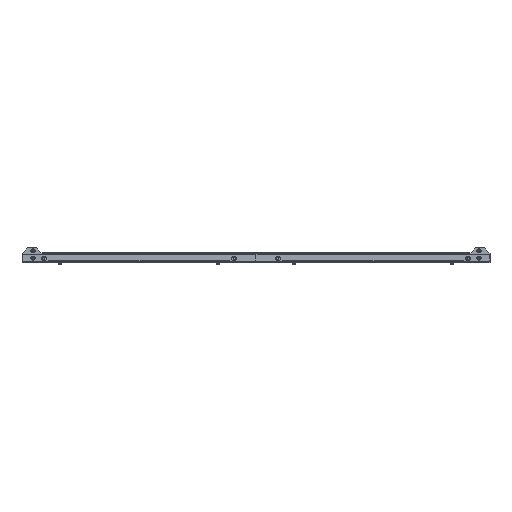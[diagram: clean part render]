
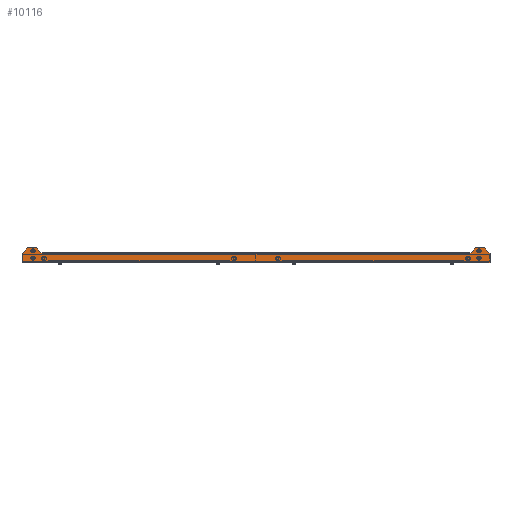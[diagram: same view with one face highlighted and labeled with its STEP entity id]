
A CAD part, front view. The second image highlights one B-rep face of the part: STEP entity #10116.
In plain terms, the highlighted planar face has unit normal (0, -1, 0).
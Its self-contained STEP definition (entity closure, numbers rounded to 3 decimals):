
#10080 = EDGE_CURVE('',#10081,#10083,#10085,.T.);
#10081 = VERTEX_POINT('',#10082);
#10082 = CARTESIAN_POINT('',(-800.,-2.5,3.5));
#10083 = VERTEX_POINT('',#10084);
#10084 = CARTESIAN_POINT('',(-800.,-2.5,31.5));
#10085 = LINE('',#10086,#10087);
#10086 = CARTESIAN_POINT('',(-800.,-2.5,0.));
#10087 = VECTOR('',#10088,1.);
#10088 = DIRECTION('',(0.,0.,1.));
#10116 = ADVANCED_FACE('',(#10117,#10128,#10139,#10150,#10161),#10282,
  .F.);
#10117 = FACE_BOUND('',#10118,.T.);
#10118 = EDGE_LOOP('',(#10119));
#10119 = ORIENTED_EDGE('',*,*,#10120,.F.);
#10120 = EDGE_CURVE('',#10121,#10121,#10123,.T.);
#10121 = VERTEX_POINT('',#10122);
#10122 = CARTESIAN_POINT('',(762.5,-2.5,44.75));
#10123 = CIRCLE('',#10124,4.75);
#10124 = AXIS2_PLACEMENT_3D('',#10125,#10126,#10127);
#10125 = CARTESIAN_POINT('',(762.5,-2.5,40.));
#10126 = DIRECTION('',(0.,-1.,0.));
#10127 = DIRECTION('',(0.,0.,1.));
#10128 = FACE_BOUND('',#10129,.T.);
#10129 = EDGE_LOOP('',(#10130));
#10130 = ORIENTED_EDGE('',*,*,#10131,.F.);
#10131 = EDGE_CURVE('',#10132,#10132,#10134,.T.);
#10132 = VERTEX_POINT('',#10133);
#10133 = CARTESIAN_POINT('',(762.5,-2.5,19.75));
#10134 = CIRCLE('',#10135,4.75);
#10135 = AXIS2_PLACEMENT_3D('',#10136,#10137,#10138);
#10136 = CARTESIAN_POINT('',(762.5,-2.5,15.));
#10137 = DIRECTION('',(0.,-1.,0.));
#10138 = DIRECTION('',(0.,0.,1.));
#10139 = FACE_BOUND('',#10140,.T.);
#10140 = EDGE_LOOP('',(#10141));
#10141 = ORIENTED_EDGE('',*,*,#10142,.F.);
#10142 = EDGE_CURVE('',#10143,#10143,#10145,.T.);
#10143 = VERTEX_POINT('',#10144);
#10144 = CARTESIAN_POINT('',(-762.5,-2.5,19.75));
#10145 = CIRCLE('',#10146,4.75);
#10146 = AXIS2_PLACEMENT_3D('',#10147,#10148,#10149);
#10147 = CARTESIAN_POINT('',(-762.5,-2.5,15.));
#10148 = DIRECTION('',(0.,-1.,0.));
#10149 = DIRECTION('',(0.,0.,1.));
#10150 = FACE_BOUND('',#10151,.T.);
#10151 = EDGE_LOOP('',(#10152));
#10152 = ORIENTED_EDGE('',*,*,#10153,.F.);
#10153 = EDGE_CURVE('',#10154,#10154,#10156,.T.);
#10154 = VERTEX_POINT('',#10155);
#10155 = CARTESIAN_POINT('',(-762.5,-2.5,44.75));
#10156 = CIRCLE('',#10157,4.75);
#10157 = AXIS2_PLACEMENT_3D('',#10158,#10159,#10160);
#10158 = CARTESIAN_POINT('',(-762.5,-2.5,40.));
#10159 = DIRECTION('',(0.,-1.,0.));
#10160 = DIRECTION('',(0.,0.,1.));
#10161 = FACE_BOUND('',#10162,.T.);
#10162 = EDGE_LOOP('',(#10163,#10173,#10181,#10189,#10197,#10205,#10213,
    #10221,#10229,#10237,#10245,#10253,#10259,#10260,#10268,#10276));
#10163 = ORIENTED_EDGE('',*,*,#10164,.F.);
#10164 = EDGE_CURVE('',#10165,#10167,#10169,.T.);
#10165 = VERTEX_POINT('',#10166);
#10166 = CARTESIAN_POINT('',(800.,-2.5,31.5));
#10167 = VERTEX_POINT('',#10168);
#10168 = CARTESIAN_POINT('',(800.,-2.5,3.5));
#10169 = LINE('',#10170,#10171);
#10170 = CARTESIAN_POINT('',(800.,-2.5,0.));
#10171 = VECTOR('',#10172,1.);
#10172 = DIRECTION('',(-0.,-0.,-1.));
#10173 = ORIENTED_EDGE('',*,*,#10174,.T.);
#10174 = EDGE_CURVE('',#10165,#10175,#10177,.T.);
#10175 = VERTEX_POINT('',#10176);
#10176 = CARTESIAN_POINT('',(781.5,-2.5,50.));
#10177 = LINE('',#10178,#10179);
#10178 = CARTESIAN_POINT('',(781.5,-2.5,50.));
#10179 = VECTOR('',#10180,1.);
#10180 = DIRECTION('',(-0.707,-0.,0.707));
#10181 = ORIENTED_EDGE('',*,*,#10182,.F.);
#10182 = EDGE_CURVE('',#10183,#10175,#10185,.T.);
#10183 = VERTEX_POINT('',#10184);
#10184 = CARTESIAN_POINT('',(750.,-2.5,50.));
#10185 = LINE('',#10186,#10187);
#10186 = CARTESIAN_POINT('',(800.,-2.5,50.));
#10187 = VECTOR('',#10188,1.);
#10188 = DIRECTION('',(1.,-0.,0.));
#10189 = ORIENTED_EDGE('',*,*,#10190,.T.);
#10190 = EDGE_CURVE('',#10183,#10191,#10193,.T.);
#10191 = VERTEX_POINT('',#10192);
#10192 = CARTESIAN_POINT('',(731.5,-2.5,31.5));
#10193 = LINE('',#10194,#10195);
#10194 = CARTESIAN_POINT('',(350.,-2.5,-350.));
#10195 = VECTOR('',#10196,1.);
#10196 = DIRECTION('',(-0.707,0.,-0.707));
#10197 = ORIENTED_EDGE('',*,*,#10198,.F.);
#10198 = EDGE_CURVE('',#10199,#10191,#10201,.T.);
#10199 = VERTEX_POINT('',#10200);
#10200 = CARTESIAN_POINT('',(730.,-2.5,31.5));
#10201 = LINE('',#10202,#10203);
#10202 = CARTESIAN_POINT('',(-750.,-2.5,31.5));
#10203 = VECTOR('',#10204,1.);
#10204 = DIRECTION('',(1.,0.,0.));
#10205 = ORIENTED_EDGE('',*,*,#10206,.T.);
#10206 = EDGE_CURVE('',#10199,#10207,#10209,.T.);
#10207 = VERTEX_POINT('',#10208);
#10208 = CARTESIAN_POINT('',(730.,-2.5,35.));
#10209 = LINE('',#10210,#10211);
#10210 = CARTESIAN_POINT('',(730.,-2.5,31.5));
#10211 = VECTOR('',#10212,1.);
#10212 = DIRECTION('',(-0.,-0.,1.));
#10213 = ORIENTED_EDGE('',*,*,#10214,.F.);
#10214 = EDGE_CURVE('',#10215,#10207,#10217,.T.);
#10215 = VERTEX_POINT('',#10216);
#10216 = CARTESIAN_POINT('',(-730.,-2.5,35.));
#10217 = LINE('',#10218,#10219);
#10218 = CARTESIAN_POINT('',(0.,-2.5,35.));
#10219 = VECTOR('',#10220,1.);
#10220 = DIRECTION('',(1.,-0.,-0.));
#10221 = ORIENTED_EDGE('',*,*,#10222,.F.);
#10222 = EDGE_CURVE('',#10223,#10215,#10225,.T.);
#10223 = VERTEX_POINT('',#10224);
#10224 = CARTESIAN_POINT('',(-730.,-2.5,31.5));
#10225 = LINE('',#10226,#10227);
#10226 = CARTESIAN_POINT('',(-730.,-2.5,0.));
#10227 = VECTOR('',#10228,1.);
#10228 = DIRECTION('',(0.,0.,1.));
#10229 = ORIENTED_EDGE('',*,*,#10230,.F.);
#10230 = EDGE_CURVE('',#10231,#10223,#10233,.T.);
#10231 = VERTEX_POINT('',#10232);
#10232 = CARTESIAN_POINT('',(-731.5,-2.5,31.5));
#10233 = LINE('',#10234,#10235);
#10234 = CARTESIAN_POINT('',(-750.,-2.5,31.5));
#10235 = VECTOR('',#10236,1.);
#10236 = DIRECTION('',(1.,0.,0.));
#10237 = ORIENTED_EDGE('',*,*,#10238,.T.);
#10238 = EDGE_CURVE('',#10231,#10239,#10241,.T.);
#10239 = VERTEX_POINT('',#10240);
#10240 = CARTESIAN_POINT('',(-750.,-2.5,50.));
#10241 = LINE('',#10242,#10243);
#10242 = CARTESIAN_POINT('',(-350.,-2.5,-350.));
#10243 = VECTOR('',#10244,1.);
#10244 = DIRECTION('',(-0.707,-0.,0.707));
#10245 = ORIENTED_EDGE('',*,*,#10246,.F.);
#10246 = EDGE_CURVE('',#10247,#10239,#10249,.T.);
#10247 = VERTEX_POINT('',#10248);
#10248 = CARTESIAN_POINT('',(-781.5,-2.5,50.));
#10249 = LINE('',#10250,#10251);
#10250 = CARTESIAN_POINT('',(-800.,-2.5,50.));
#10251 = VECTOR('',#10252,1.);
#10252 = DIRECTION('',(1.,0.,0.));
#10253 = ORIENTED_EDGE('',*,*,#10254,.T.);
#10254 = EDGE_CURVE('',#10247,#10083,#10255,.T.);
#10255 = LINE('',#10256,#10257);
#10256 = CARTESIAN_POINT('',(-800.,-2.5,31.5));
#10257 = VECTOR('',#10258,1.);
#10258 = DIRECTION('',(-0.707,-0.,-0.707));
#10259 = ORIENTED_EDGE('',*,*,#10080,.F.);
#10260 = ORIENTED_EDGE('',*,*,#10261,.T.);
#10261 = EDGE_CURVE('',#10081,#10262,#10264,.T.);
#10262 = VERTEX_POINT('',#10263);
#10263 = CARTESIAN_POINT('',(-800.,-2.5,0.));
#10264 = LINE('',#10265,#10266);
#10265 = CARTESIAN_POINT('',(-800.,-2.5,3.5));
#10266 = VECTOR('',#10267,1.);
#10267 = DIRECTION('',(0.,-0.,-1.));
#10268 = ORIENTED_EDGE('',*,*,#10269,.F.);
#10269 = EDGE_CURVE('',#10270,#10262,#10272,.T.);
#10270 = VERTEX_POINT('',#10271);
#10271 = CARTESIAN_POINT('',(800.,-2.5,0.));
#10272 = LINE('',#10273,#10274);
#10273 = CARTESIAN_POINT('',(0.,-2.5,0.));
#10274 = VECTOR('',#10275,1.);
#10275 = DIRECTION('',(-1.,-0.,0.));
#10276 = ORIENTED_EDGE('',*,*,#10277,.F.);
#10277 = EDGE_CURVE('',#10167,#10270,#10278,.T.);
#10278 = LINE('',#10279,#10280);
#10279 = CARTESIAN_POINT('',(800.,-2.5,0.));
#10280 = VECTOR('',#10281,1.);
#10281 = DIRECTION('',(0.,0.,-1.));
#10282 = PLANE('',#10283);
#10283 = AXIS2_PLACEMENT_3D('',#10284,#10285,#10286);
#10284 = CARTESIAN_POINT('',(0.,-2.5,0.));
#10285 = DIRECTION('',(0.,1.,0.));
#10286 = DIRECTION('',(0.,-0.,1.));
